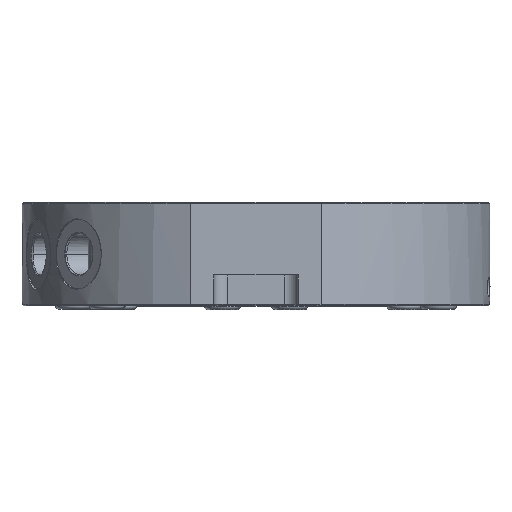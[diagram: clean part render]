
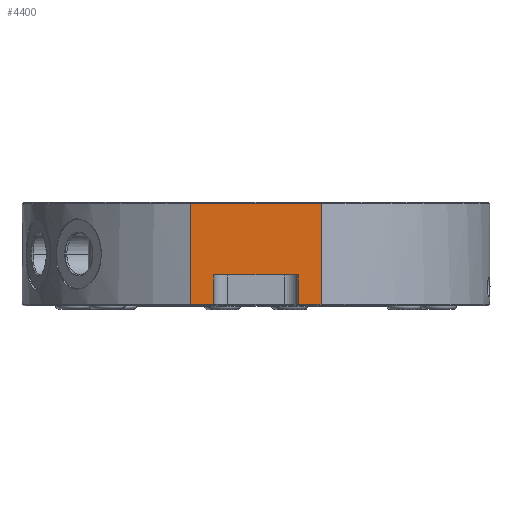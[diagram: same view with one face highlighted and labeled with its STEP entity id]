
A CAD part, top view. The second image highlights one B-rep face of the part: STEP entity #4400.
In plain terms, the highlighted planar face has unit normal (0, 0, 1).
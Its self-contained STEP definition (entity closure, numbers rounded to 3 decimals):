
#53 = VECTOR ( 'NONE', #16372, 1000. ) ;
#128 = ORIENTED_EDGE ( 'NONE', *, *, #16026, .T. ) ;
#264 = CARTESIAN_POINT ( 'NONE',  ( -9.2, -21.8, 48. ) ) ;
#403 = VECTOR ( 'NONE', #14993, 1000. ) ;
#774 = FACE_OUTER_BOUND ( 'NONE', #12415, .T. ) ;
#1031 = CARTESIAN_POINT ( 'NONE',  ( 14., -21.8, 48. ) ) ;
#1122 = CARTESIAN_POINT ( 'NONE',  ( 9., 0., 48. ) ) ;
#1965 = DIRECTION ( 'NONE',  ( -1., 0., 0. ) ) ;
#2114 = LINE ( 'NONE', #3976, #5670 ) ;
#2226 = ORIENTED_EDGE ( 'NONE', *, *, #6366, .T. ) ;
#2351 = DIRECTION ( 'NONE',  ( 0., 1., 0. ) ) ;
#2618 = ORIENTED_EDGE ( 'NONE', *, *, #14657, .T. ) ;
#2846 = CARTESIAN_POINT ( 'NONE',  ( 14., -21.8, 48. ) ) ;
#3063 = VERTEX_POINT ( 'NONE', #9981 ) ;
#3437 = EDGE_CURVE ( 'NONE', #14272, #7751, #2114, .T. ) ;
#3678 = CARTESIAN_POINT ( 'NONE',  ( 9., -15.5, 48. ) ) ;
#3881 = LINE ( 'NONE', #15588, #5863 ) ;
#3976 = CARTESIAN_POINT ( 'NONE',  ( -9., 0., 48. ) ) ;
#4043 = VERTEX_POINT ( 'NONE', #3678 ) ;
#4044 = B_SPLINE_CURVE_WITH_KNOTS ( 'NONE', 3,
 ( #16802, #4159, #5567, #2846 ),
 .UNSPECIFIED., .F., .F.,
 ( 4, 4 ),
 ( 0.091, 0.092 ),
 .UNSPECIFIED. ) ;
#4159 = CARTESIAN_POINT ( 'NONE',  ( 13.759, -21.867, 48. ) ) ;
#4294 = DIRECTION ( 'NONE',  ( 1., 0., 0. ) ) ;
#4400 = ADVANCED_FACE ( 'NONE', ( #774 ), #7171, .F. ) ;
#4430 = LINE ( 'NONE', #11994, #18334 ) ;
#4742 = DIRECTION ( 'NONE',  ( 0.707, -0.707, 0. ) ) ;
#5078 = DIRECTION ( 'NONE',  ( 0., 1., 0. ) ) ;
#5487 = ORIENTED_EDGE ( 'NONE', *, *, #10475, .T. ) ;
#5567 = CARTESIAN_POINT ( 'NONE',  ( 13.88, -21.834, 48. ) ) ;
#5657 = VERTEX_POINT ( 'NONE', #9363 ) ;
#5670 = VECTOR ( 'NONE', #2351, 1000. ) ;
#5683 = VERTEX_POINT ( 'NONE', #16237 ) ;
#5713 = DIRECTION ( 'NONE',  ( -1., 0., 0. ) ) ;
#5768 = VECTOR ( 'NONE', #4294, 1000. ) ;
#5863 = VECTOR ( 'NONE', #10013, 1000. ) ;
#6366 = EDGE_CURVE ( 'NONE', #3063, #14272, #7517, .T. ) ;
#6437 = LINE ( 'NONE', #14769, #16630 ) ;
#6874 = VECTOR ( 'NONE', #8533, 1000. ) ;
#7171 = PLANE ( 'NONE',  #17032 ) ;
#7517 = LINE ( 'NONE', #264, #5768 ) ;
#7751 = VERTEX_POINT ( 'NONE', #17462 ) ;
#7885 = CARTESIAN_POINT ( 'NONE',  ( -31.726, -15.5, 48. ) ) ;
#8533 = DIRECTION ( 'NONE',  ( 0., -1., 0. ) ) ;
#8588 = ORIENTED_EDGE ( 'NONE', *, *, #14820, .T. ) ;
#9237 = CARTESIAN_POINT ( 'NONE',  ( 9., -21.8, 48. ) ) ;
#9363 = CARTESIAN_POINT ( 'NONE',  ( 14., -0.2, 48. ) ) ;
#9631 = ORIENTED_EDGE ( 'NONE', *, *, #17993, .T. ) ;
#9690 = ORIENTED_EDGE ( 'NONE', *, *, #14070, .T. ) ;
#9981 = CARTESIAN_POINT ( 'NONE',  ( -14., -21.8, 48. ) ) ;
#10013 = DIRECTION ( 'NONE',  ( 0., -1., 0. ) ) ;
#10092 = CARTESIAN_POINT ( 'NONE',  ( -14., -0.2, 48. ) ) ;
#10447 = VERTEX_POINT ( 'NONE', #17601 ) ;
#10475 = EDGE_CURVE ( 'NONE', #7751, #4043, #11758, .T. ) ;
#10577 = VECTOR ( 'NONE', #4742, 1000. ) ;
#10874 = LINE ( 'NONE', #1122, #6874 ) ;
#11294 = VERTEX_POINT ( 'NONE', #15433 ) ;
#11758 = LINE ( 'NONE', #7885, #53 ) ;
#11808 = EDGE_CURVE ( 'NONE', #16761, #3063, #3881, .T. ) ;
#11994 = CARTESIAN_POINT ( 'NONE',  ( 14., 0., 48. ) ) ;
#12415 = EDGE_LOOP ( 'NONE', ( #9690, #17961, #9631, #128, #8588, #13602, #2226, #15133, #5487, #2618 ) ) ;
#12753 = CARTESIAN_POINT ( 'NONE',  ( -31.726, 0., 48. ) ) ;
#12806 = LINE ( 'NONE', #17682, #403 ) ;
#13226 = EDGE_CURVE ( 'NONE', #10447, #5683, #12806, .T. ) ;
#13602 = ORIENTED_EDGE ( 'NONE', *, *, #11808, .T. ) ;
#14070 = EDGE_CURVE ( 'NONE', #11294, #10447, #14355, .T. ) ;
#14272 = VERTEX_POINT ( 'NONE', #17820 ) ;
#14355 = LINE ( 'NONE', #9237, #10577 ) ;
#14657 = EDGE_CURVE ( 'NONE', #4043, #11294, #10874, .T. ) ;
#14769 = CARTESIAN_POINT ( 'NONE',  ( -13.268, -0.2, 48. ) ) ;
#14820 = EDGE_CURVE ( 'NONE', #5657, #16761, #6437, .T. ) ;
#14993 = DIRECTION ( 'NONE',  ( 1., 0., 0. ) ) ;
#15133 = ORIENTED_EDGE ( 'NONE', *, *, #3437, .T. ) ;
#15433 = CARTESIAN_POINT ( 'NONE',  ( 9., -21.8, 48. ) ) ;
#15588 = CARTESIAN_POINT ( 'NONE',  ( -14., 0., 48. ) ) ;
#15793 = DIRECTION ( 'NONE',  ( 0., 0., -1. ) ) ;
#16026 = EDGE_CURVE ( 'NONE', #16580, #5657, #4430, .T. ) ;
#16237 = CARTESIAN_POINT ( 'NONE',  ( 13.639, -21.9, 48. ) ) ;
#16372 = DIRECTION ( 'NONE',  ( 1., 0., 0. ) ) ;
#16580 = VERTEX_POINT ( 'NONE', #1031 ) ;
#16630 = VECTOR ( 'NONE', #1965, 1000. ) ;
#16761 = VERTEX_POINT ( 'NONE', #10092 ) ;
#16802 = CARTESIAN_POINT ( 'NONE',  ( 13.639, -21.9, 48. ) ) ;
#17032 = AXIS2_PLACEMENT_3D ( 'NONE', #12753, #15793, #5713 ) ;
#17462 = CARTESIAN_POINT ( 'NONE',  ( -9., -15.5, 48. ) ) ;
#17601 = CARTESIAN_POINT ( 'NONE',  ( 9.1, -21.9, 48. ) ) ;
#17682 = CARTESIAN_POINT ( 'NONE',  ( 13.268, -21.9, 48. ) ) ;
#17820 = CARTESIAN_POINT ( 'NONE',  ( -9., -21.8, 48. ) ) ;
#17961 = ORIENTED_EDGE ( 'NONE', *, *, #13226, .T. ) ;
#17993 = EDGE_CURVE ( 'NONE', #5683, #16580, #4044, .T. ) ;
#18334 = VECTOR ( 'NONE', #5078, 1000. ) ;
